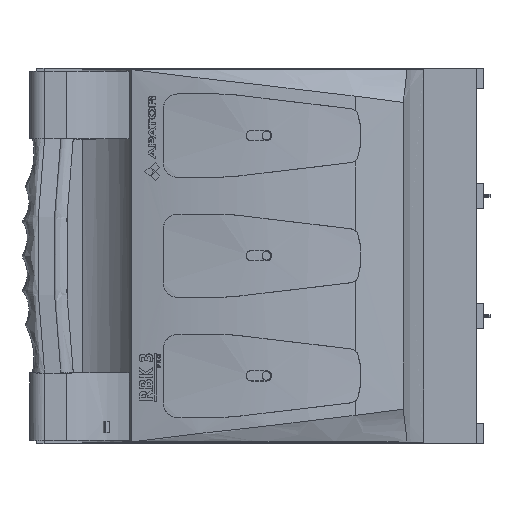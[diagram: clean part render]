
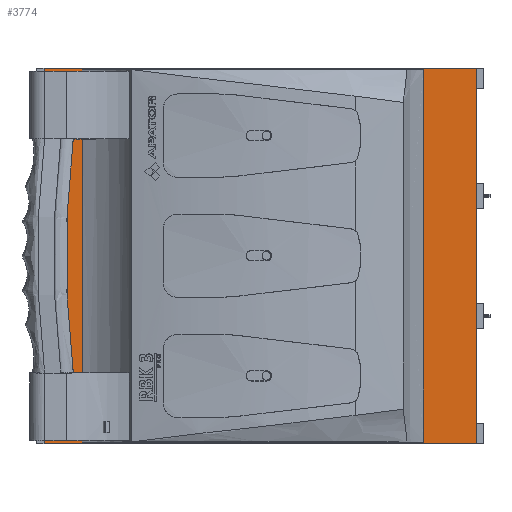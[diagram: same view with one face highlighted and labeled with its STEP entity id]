
A CAD part, top view. The second image highlights one B-rep face of the part: STEP entity #3774.
In plain terms, the highlighted planar face has unit normal (0, 0, 1).
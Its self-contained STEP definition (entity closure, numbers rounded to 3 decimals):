
#3037=FACE_BOUND('',#6675,.T.);
#3038=FACE_BOUND('',#6676,.T.);
#3774=ADVANCED_FACE('',(#3037,#3038),#5038,.F.);
#5038=PLANE('',#25391);
#6675=EDGE_LOOP('',(#8956,#8957,#8958,#8959));
#6676=EDGE_LOOP('',(#8960,#8961,#8962,#8963));
#8956=ORIENTED_EDGE('',*,*,#17787,.F.);
#8957=ORIENTED_EDGE('',*,*,#18477,.T.);
#8958=ORIENTED_EDGE('',*,*,#17875,.T.);
#8959=ORIENTED_EDGE('',*,*,#18478,.F.);
#8960=ORIENTED_EDGE('',*,*,#18479,.T.);
#8961=ORIENTED_EDGE('',*,*,#18480,.F.);
#8962=ORIENTED_EDGE('',*,*,#18481,.F.);
#8963=ORIENTED_EDGE('',*,*,#18482,.T.);
#15320=VERTEX_POINT('',#32678);
#15321=VERTEX_POINT('',#32680);
#15408=VERTEX_POINT('',#32892);
#15409=VERTEX_POINT('',#32894);
#15996=VERTEX_POINT('',#35965);
#15997=VERTEX_POINT('',#35966);
#15998=VERTEX_POINT('',#35968);
#15999=VERTEX_POINT('',#35970);
#17787=EDGE_CURVE('',#15320,#15321,#21363,.T.);
#17875=EDGE_CURVE('',#15409,#15408,#21398,.T.);
#18477=EDGE_CURVE('',#15320,#15409,#21493,.T.);
#18478=EDGE_CURVE('',#15321,#15408,#21494,.T.);
#18479=EDGE_CURVE('',#15996,#15997,#21495,.T.);
#18480=EDGE_CURVE('',#15998,#15997,#21496,.T.);
#18481=EDGE_CURVE('',#15999,#15998,#21497,.T.);
#18482=EDGE_CURVE('',#15999,#15996,#21498,.T.);
#21363=LINE('',#32679,#23046);
#21398=LINE('',#32893,#23081);
#21493=LINE('',#35962,#23180);
#21494=LINE('',#35963,#23181);
#21495=LINE('',#35964,#23182);
#21496=LINE('',#35967,#23183);
#21497=LINE('',#35969,#23184);
#21498=LINE('',#35971,#23185);
#23046=VECTOR('',#27125,1.);
#23081=VECTOR('',#27254,1.);
#23180=VECTOR('',#27455,1.);
#23181=VECTOR('',#27456,1.);
#23182=VECTOR('',#27457,1.);
#23183=VECTOR('',#27458,1.);
#23184=VECTOR('',#27459,1.);
#23185=VECTOR('',#27460,1.);
#25391=AXIS2_PLACEMENT_3D('',#35972,#27461,#27462);
#27125=DIRECTION('',(1.,0.,0.));
#27254=DIRECTION('',(1.,0.,0.));
#27455=DIRECTION('',(0.,-1.,0.));
#27456=DIRECTION('',(0.,-1.,0.));
#27457=DIRECTION('',(-1.,0.,0.));
#27458=DIRECTION('',(0.,-1.,0.));
#27459=DIRECTION('',(-1.,0.,0.));
#27460=DIRECTION('',(0.,-1.,0.));
#27461=DIRECTION('',(0.,0.,-1.));
#27462=DIRECTION('',(0.,1.,0.));
#32678=CARTESIAN_POINT('',(-155.5,125.,84.5));
#32679=CARTESIAN_POINT('',(-127.,125.,84.5));
#32680=CARTESIAN_POINT('',(132.5,125.,84.5));
#32892=CARTESIAN_POINT('',(132.5,-125.,84.5));
#32893=CARTESIAN_POINT('',(93.,-125.,84.5));
#32894=CARTESIAN_POINT('',(-155.5,-125.,84.5));
#35962=CARTESIAN_POINT('',(-155.5,120.5,84.5));
#35963=CARTESIAN_POINT('',(132.5,120.5,84.5));
#35964=CARTESIAN_POINT('',(-17.275,-124.,84.5));
#35965=CARTESIAN_POINT('',(97.261,-124.,84.5));
#35966=CARTESIAN_POINT('',(-129.969,-124.,84.5));
#35967=CARTESIAN_POINT('',(-129.969,120.5,84.5));
#35968=CARTESIAN_POINT('',(-129.969,124.,84.5));
#35969=CARTESIAN_POINT('',(93.,124.,84.5));
#35970=CARTESIAN_POINT('',(97.261,124.,84.5));
#35971=CARTESIAN_POINT('',(97.261,129.232,84.5));
#35972=CARTESIAN_POINT('',(93.,120.5,84.5));
